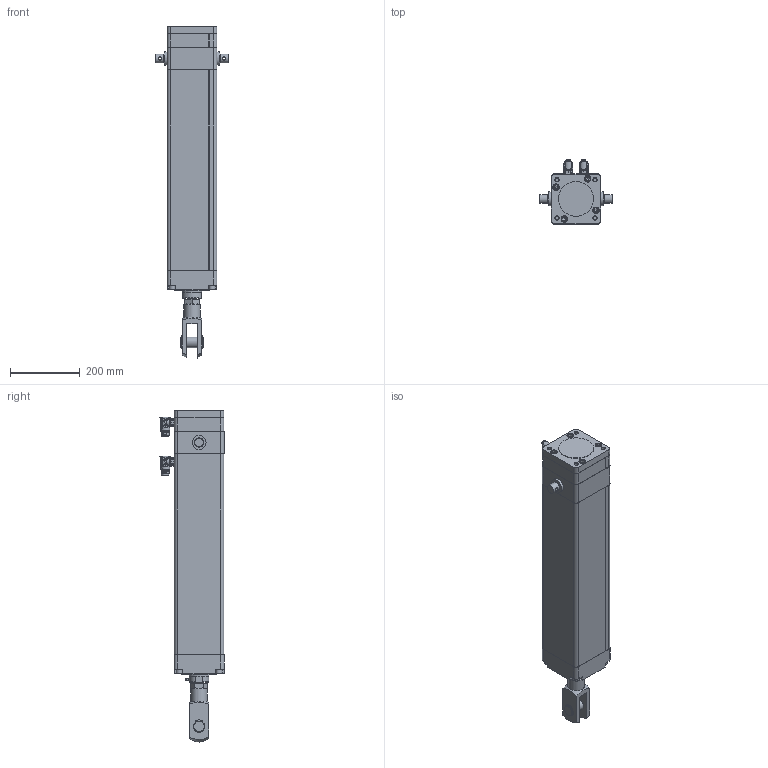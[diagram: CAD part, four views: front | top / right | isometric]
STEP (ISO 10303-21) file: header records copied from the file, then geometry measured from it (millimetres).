
FILE_DESCRIPTION (( 'STEP AP203' ), '1' );
FILE_NAME ('IMA55_RN05_SM431.800_IMA-476955-1.step', '2024-12-16T21:11:40', ( '' ), ( '' ), 'SwSTEP 2.0', 'SolidWorks 2024', '' );
FILE_SCHEMA (( 'CONFIG_CONTROL_DESIGN' ));
Length unit declared in the file: inch
Products named in the file (4): 27559015_IMA55_RN05_SM431.800_IMA-476955-1; Base_IMA55_RN05_SM431.800_IMA-476955-1; tempJoin1_27559011_IMA55_RN05_SM431.800_IMA-476955-1; IMA55_RN05_SM431.800_IMA-476955-1
Assembly tree (3 placements, depth 2):
  IMA55_RN05_SM431.800_IMA-476955-1
    tempJoin1_27559011_IMA55_RN05_SM431.800_IMA-476955-1
    27559015_IMA55_RN05_SM431.800_IMA-476955-1
    Base_IMA55_RN05_SM431.800_IMA-476955-1
Bounding box: 209.79 x 184.34 x 955.05 mm (x, y, z)
Volume: 14066992.8 mm3; surface area: 888732.2 mm2
Topology: 3 solids, 12 shells, 2318 faces, 5988 edges, 3780 vertices
Faces by surface type: plane 1211, cylinder 508, bspline 456, cone 116, torus 27
Full cylindrical faces by diameter (mm): 1 x12, 1.18 x12, 2 x6, 2.25 x4, 2.5 x8, 2.7 x8, 3 x2, 3.2 x2, 4 x4, 4.5 x10, 4.93 x4, 5.5 x3, 6.477 x1, 7.8 x4, 9.398 x2, 10.25 x4, 12 x4, 12.5 x8, 12.7 x4, 15.2 x1, 17.4 x1, 18 x8, 19.05 x4, 19.1 x4, 19.9 x1, 21.15 x4, 21.6 x1, 24.968 x2, 25 x2, 27 x1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
Entity records: 91579 total; most frequent: CARTESIAN_POINT 40553, ORIENTED_EDGE 11024, DIRECTION 8891, EDGE_CURVE 5512, VERTEX_POINT 3624, LINE 3107, VECTOR 3107, AXIS2_PLACEMENT_3D 2892
